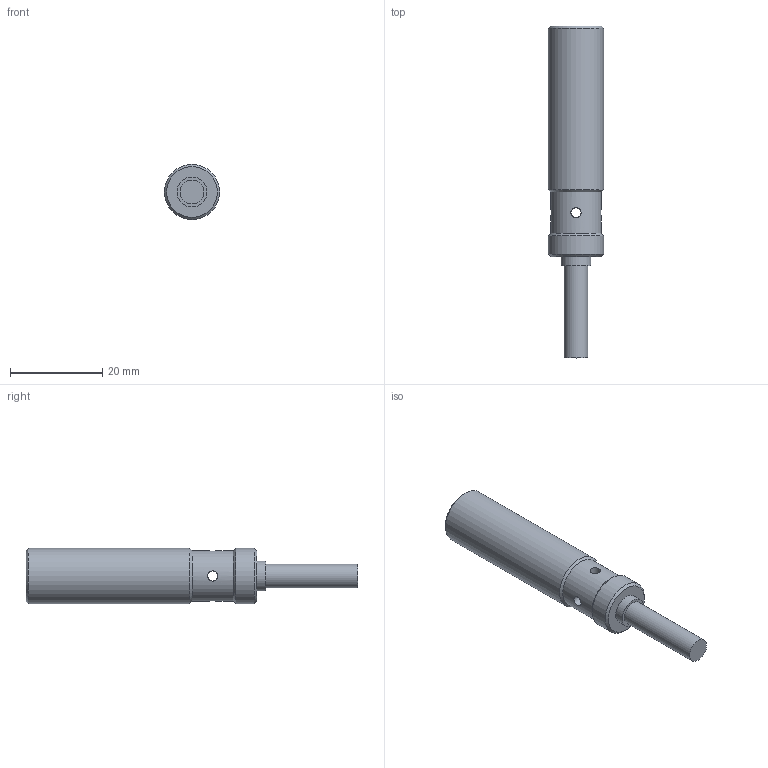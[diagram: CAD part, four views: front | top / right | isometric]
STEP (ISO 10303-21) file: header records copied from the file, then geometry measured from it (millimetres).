
FILE_DESCRIPTION((''),'2;1');
FILE_NAME('C:\TurckZip\Bi-EM12WD-X.stp','2007-06-28T14:37:12',('IKOROL'),(''),'Autodesk Inventor 11','Autodesk Inventor 11','');
FILE_SCHEMA(('AUTOMOTIVE_DESIGN { 1 0 10303 214 1 1 1 1 }'));
Length unit declared in the file: millimetre
Products named in the file (1): Part6
Bounding box: 12 x 72 x 12 mm (x, y, z)
Volume: 5889 mm3; surface area: 2557 mm2
Topology: 1 solids, 1 shells, 17 faces, 39 edges, 23 vertices
Faces by surface type: cylinder 9, plane 4, cone 4
Full cylindrical faces by diameter (mm): 2.2 x4, 5.2 x1, 6.5 x1, 11 x1, 12 x2
Entity records: 581 total; most frequent: CARTESIAN_POINT 248, DIRECTION 68, ORIENTED_EDGE 40, EDGE_LOOP 36, AXIS2_PLACEMENT_3D 34, EDGE_CURVE 20, FACE_BOUND 19, VERTEX_POINT 18
